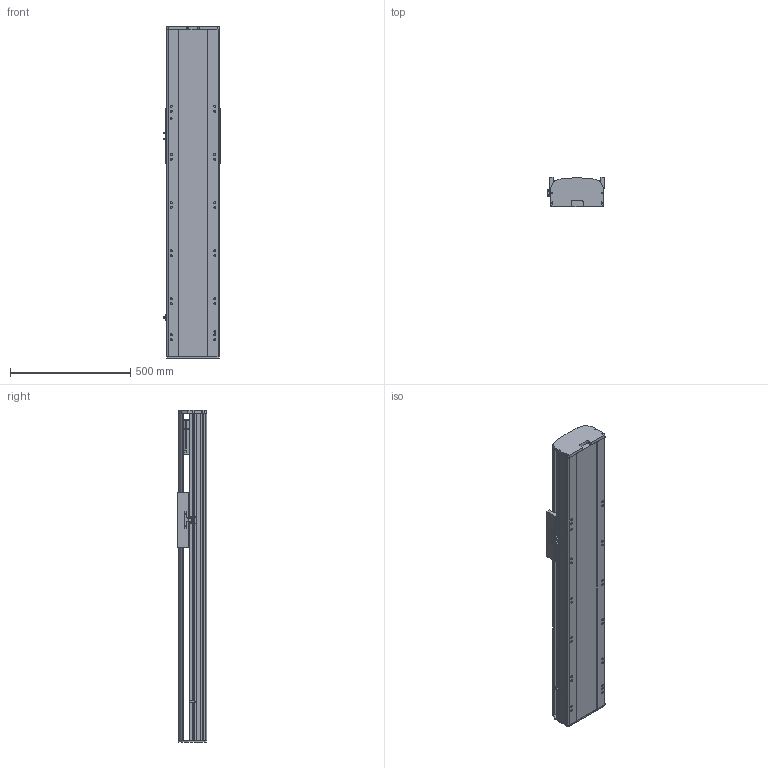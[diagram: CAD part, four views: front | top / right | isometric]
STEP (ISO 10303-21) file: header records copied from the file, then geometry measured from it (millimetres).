
FILE_DESCRIPTION (( 'STEP AP214' ), '1' );
FILE_NAME ('RTH22-XX-750-B-M75B-C4.STEP', '2025-10-24T10:09:54', ( 'Microsoft' ), ( 'Microsoft' ), 'SwSTEP 2.0', 'SolidWorks 2018', '' );
FILE_SCHEMA (( 'AUTOMOTIVE_DESIGN' ));
Length unit declared in the file: millimetre
Products named in the file (9): N_RTH22-B-011B菁釱^RTH22-XX-XX-B-M75B-C4; RTH22-XX-750-B-M75B-C4; N_RTH22-GY-001耜裔^RTH22-XX-XX-B-M75B-C4; N_RTH22-GY-013外置感应片^RTH22-XX-XX-B-M75B-C4; N_RTH22-B008萇儂啣^RTH22-XX-XX-B-M75B-C4; N_OMRON EE-SX672 传感器^RTH22-XX-XX-B-M75B-C4; N_750W萇儂^RTH22-XX-XX-B-M75B-C4; N_RTH22-B-007B奻裔^RTH22-XX-XX-B-M75B-C4; N_RTH22-E-004-SFS25賑釱^RTH22-XX-XX-B-M75B-C4
Assembly tree (10 placements, depth 2):
  RTH22-XX-750-B-M75B-C4
    N_RTH22-B-011B菁釱^RTH22-XX-XX-B-M75B-C4
    N_RTH22-GY-001耜裔^RTH22-XX-XX-B-M75B-C4
    N_750W萇儂^RTH22-XX-XX-B-M75B-C4
    N_RTH22-B008萇儂啣^RTH22-XX-XX-B-M75B-C4
    N_RTH22-B-007B奻裔^RTH22-XX-XX-B-M75B-C4
    N_OMRON EE-SX672 传感器^RTH22-XX-XX-B-M75B-C4  x3
    N_RTH22-GY-013外置感应片^RTH22-XX-XX-B-M75B-C4
    N_RTH22-E-004-SFS25賑釱^RTH22-XX-XX-B-M75B-C4
Bounding box: 238.5 x 122 x 1380 mm (x, y, z)
Volume: 19033933.3 mm3; surface area: 1969462.3 mm2
Topology: 10 solids, 10 shells, 1515 faces, 4150 edges, 2683 vertices
Faces by surface type: plane 752, cylinder 430, bspline 279, cone 54
Entity records: 37433 total; most frequent: CARTESIAN_POINT 11697, ORIENTED_EDGE 5284, DIRECTION 4940, EDGE_CURVE 2642, VERTEX_POINT 1719, AXIS2_PLACEMENT_3D 1654, LINE 1632, VECTOR 1632
